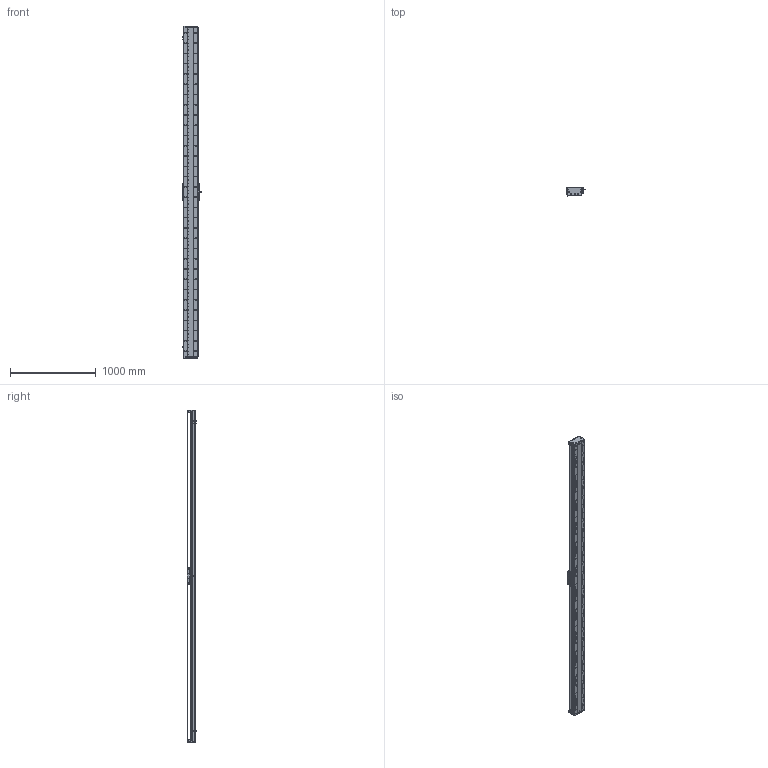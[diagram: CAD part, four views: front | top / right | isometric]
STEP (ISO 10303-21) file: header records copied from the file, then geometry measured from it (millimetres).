
FILE_DESCRIPTION (( 'STEP AP203' ), '1' );
FILE_NAME ('DA-C165-C2-T3600-C010-0.2 直线电机.STEP', '2023-05-11T08:07:28', ( '微软用户' ), ( '微软中国' ), 'SwSTEP 2.0', 'SolidWorks 2019', '' );
FILE_SCHEMA (( 'CONFIG_CONTROL_DESIGN' ));
Products named in the file (18): 复件 DA165-GD-DG-H-00 端盖^复件 CU165钢带组件_DA-C165-C2-T-C010-0.2-N 直线电机; 珨极趙賑雄怢啣wf-C2; DA-C165-C2-T3600-C010-0.2 眻盄萇儂; 复件 DA95-HXJ-00 缓冲橡胶^DA-C165-C2-T-C010-0.2-N 直线电机; 复件 CKM02-W075-C1C2-TP-3.0 一体电机-C2^DA-C165-C2-T-C010-0.2-N 直线电机; 复件 DA165-GDYK-00 钢带压块^复件 CU165钢带组件_DA-C165-C2-T-C010-0.2-N 直线电机; 葩璃 DA95-GT-T-00^IU-CU165-L 菁釱絳寢_T; 复件 CU165钢带组件^DA-C165-C2-T-C010-0.2-N 直线电机; 复件 XD-U-02L 磁栅尺^DA-C165-C2-T-C010-0.2-N 直线电机_T; 复件 DA165-GYP-00 光电感应片^DA-C165-C2-T-C010-0.2-N 直线电机; 复件 DMA-010-0.2 读数头^DA-C165-C2-T-C010-0.2-N 直线电机; 复件 DA165-GD-1860-002-00 钢带盖板^复件 CU165钢带组件_DA-C165-C2-T-C010-0.2-N 直线电机; 复件 DA165-GDLK-00 钢带拉块^复件 CU165钢带组件_DA-C165-C2-T-C010-0.2-N 直线电机; IU-CU165-L-00 菁釱_L3840; 葩璃 CKM01-W075-TRL^DA-C165-C2-T-C010-0.2-N 眻盄萇儂; IU-CU165-L 菁釱絳寢; 葩璃 PM-T45^DA-C165-C2-T-C010-0.2-N 眻盄萇儂; 复件 六角薄螺母 M3^DA-C165-C2-T-C010-0.2-N 直线电机_GB_FASTENER_NUT_STNAB M3-C
Assembly tree (33 placements, depth 3):
  DA-C165-C2-T3600-C010-0.2 眻盄萇儂
    IU-CU165-L 菁釱絳寢
      IU-CU165-L-00 菁釱_L3840
      葩璃 DA95-GT-T-00^IU-CU165-L 菁釱絳寢_T  x4
    复件 XD-U-02L 磁栅尺^DA-C165-C2-T-C010-0.2-N 直线电机_T
    葩璃 PM-T45^DA-C165-C2-T-C010-0.2-N 眻盄萇儂  x3
    葩璃 CKM01-W075-TRL^DA-C165-C2-T-C010-0.2-N 眻盄萇儂
    复件 CU165钢带组件^DA-C165-C2-T-C010-0.2-N 直线电机
      复件 DA165-GD-DG-H-00 端盖^复件 CU165钢带组件_DA-C165-C2-T-C010-0.2-N 直线电机  x2
      复件 DA165-GDYK-00 钢带压块^复件 CU165钢带组件_DA-C165-C2-T-C010-0.2-N 直线电机  x2
      复件 DA165-GD-1860-002-00 钢带盖板^复件 CU165钢带组件_DA-C165-C2-T-C010-0.2-N 直线电机
      复件 DA165-GDLK-00 钢带拉块^复件 CU165钢带组件_DA-C165-C2-T-C010-0.2-N 直线电机  x2
    复件 DA95-HXJ-00 缓冲橡胶^DA-C165-C2-T-C010-0.2-N 直线电机  x4
    复件 DA165-GYP-00 光电感应片^DA-C165-C2-T-C010-0.2-N 直线电机
    复件 DMA-010-0.2 读数头^DA-C165-C2-T-C010-0.2-N 直线电机
    复件 CKM02-W075-C1C2-TP-3.0 一体电机-C2^DA-C165-C2-T-C010-0.2-N 直线电机
    复件 六角薄螺母 M3^DA-C165-C2-T-C010-0.2-N 直线电机_GB_FASTENER_NUT_STNAB M3-C  x6
    珨极趙賑雄怢啣wf-C2
Bounding box: 233 x 111.45 x 3880 mm (x, y, z)
Volume: 20592267.7 mm3; surface area: 6327870.4 mm2
Topology: 70 solids, 70 shells, 4507 faces, 13749 edges, 8863 vertices
Faces by surface type: cylinder 2885, plane 1142, cone 430, torus 46, sphere 4
Entity records: 162501 total; most frequent: CARTESIAN_POINT 46819, ORIENTED_EDGE 24670, DIRECTION 23023, EDGE_CURVE 12335, AXIS2_PLACEMENT_3D 8865, VERTEX_POINT 8099, EDGE_LOOP 5542, LINE 5293
